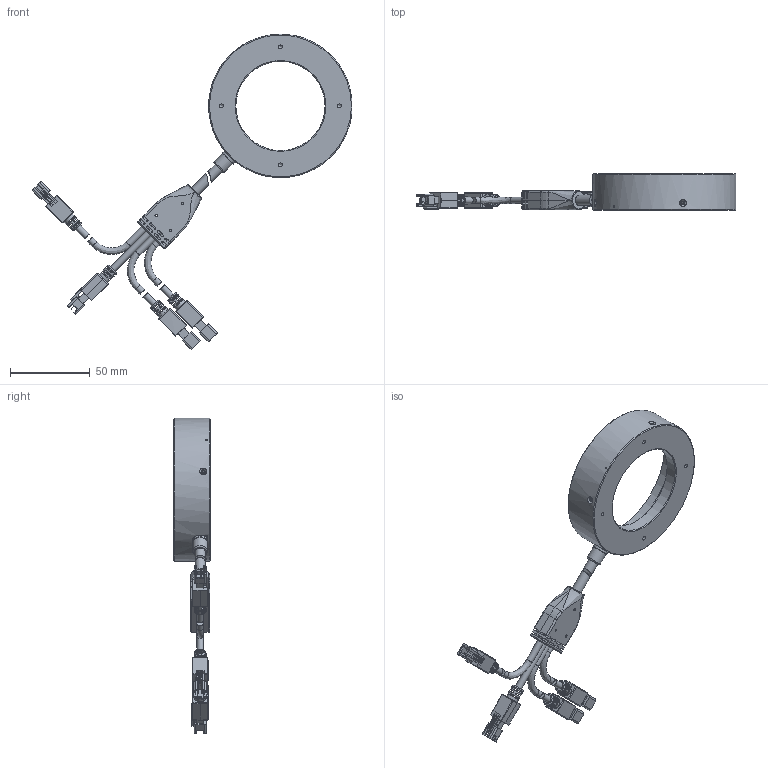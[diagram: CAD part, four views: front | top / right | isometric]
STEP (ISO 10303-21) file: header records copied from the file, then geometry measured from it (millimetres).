
FILE_DESCRIPTION (( 'STEP AP203' ), '1' );
FILE_NAME ('OPT-MSRI9045-X-V1.0尨砩芞.STEP', '2025-02-15T03:37:17', ( '' ), ( '' ), 'SwSTEP 2.0', 'SolidWorks 2016', '' );
FILE_SCHEMA (( 'CONFIG_CONTROL_DESIGN' ));
Products named in the file (1): OPT-MSRI9045-X-V1.0尨砩芞
Bounding box: 200.75 x 23 x 197.96 mm (x, y, z)
Surface area: 38627.6 mm2 (no closed solid volume)
Topology: 0 solids, 26 shells, 930 faces, 2639 edges, 1704 vertices
Faces by surface type: plane 482, cylinder 312, cone 63, bspline 58, torus 15
Full cylindrical faces by diameter (mm): 1.05 x2, 1.1 x6, 1.5 x3, 1.6 x4, 2 x4, 2.4 x4, 2.5 x4, 4.1 x10, 5 x1, 6.4 x2, 7.5 x4, 8.6 x1, 9.3 x1, 9.8 x1, 56 x1, 63.4 x1, 81.8 x1, 90 x1
Entity records: 36770 total; most frequent: CARTESIAN_POINT 14664, ORIENTED_EDGE 4567, DIRECTION 4098, EDGE_CURVE 2467, VERTEX_POINT 1643, VECTOR 1468, LINE 1468, AXIS2_PLACEMENT_3D 1315
